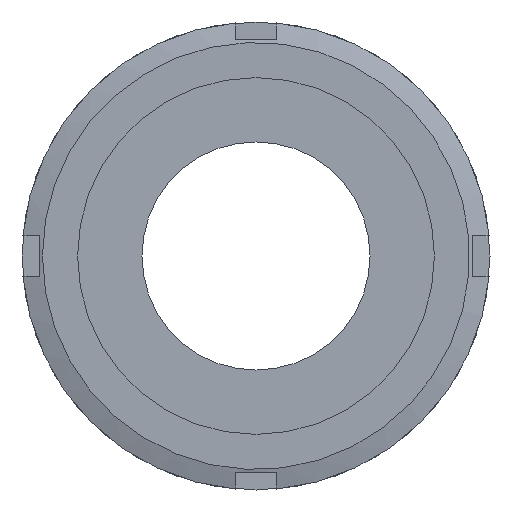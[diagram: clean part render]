
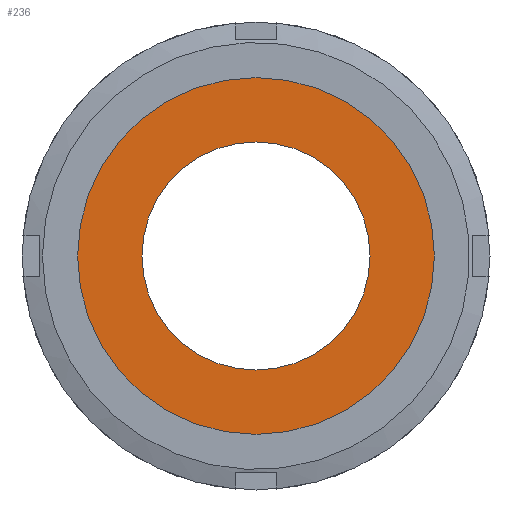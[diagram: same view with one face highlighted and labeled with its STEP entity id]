
A CAD part, left-side view. The second image highlights one B-rep face of the part: STEP entity #236.
In plain terms, the highlighted planar face has unit normal (-1, 0, 0) as drawn and (0, -1, 0) by its records, which use the part's own axes.
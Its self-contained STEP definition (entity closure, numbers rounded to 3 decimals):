
#236 = ADVANCED_FACE( '', ( #342, #343 ), #344, .T. );
#342 = FACE_OUTER_BOUND( '', #497, .T. );
#343 = FACE_BOUND( '', #498, .T. );
#344 = PLANE( '', #499 );
#497 = EDGE_LOOP( '', ( #795 ) );
#498 = EDGE_LOOP( '', ( #796 ) );
#499 = AXIS2_PLACEMENT_3D( '', #797, #798, #799 );
#795 = ORIENTED_EDGE( '', *, *, #1079, .T. );
#796 = ORIENTED_EDGE( '', *, *, #1080, .F. );
#797 = CARTESIAN_POINT( '', ( 19.5, 0., 0. ) );
#798 = DIRECTION( '', ( 0., -1., 0. ) );
#799 = DIRECTION( '', ( 0., 0., -1. ) );
#1079 = EDGE_CURVE( '', #1252, #1252, #1253, .T. );
#1080 = EDGE_CURVE( '', #1254, #1254, #1255, .T. );
#1252 = VERTEX_POINT( '', #1616 );
#1253 = CIRCLE( '', #1617, 30.5 );
#1254 = VERTEX_POINT( '', #1618 );
#1255 = CIRCLE( '', #1619, 19.5 );
#1616 = CARTESIAN_POINT( '', ( 0., 0., -30.5 ) );
#1617 = AXIS2_PLACEMENT_3D( '', #1863, #1864, #1865 );
#1618 = CARTESIAN_POINT( '', ( 0., 0., -19.5 ) );
#1619 = AXIS2_PLACEMENT_3D( '', #1866, #1867, #1868 );
#1863 = CARTESIAN_POINT( '', ( 0., 0., 0. ) );
#1864 = DIRECTION( '', ( 0., -1., 0. ) );
#1865 = DIRECTION( '', ( 0., 0., -1. ) );
#1866 = CARTESIAN_POINT( '', ( 0., 0., 0. ) );
#1867 = DIRECTION( '', ( 0., -1., 0. ) );
#1868 = DIRECTION( '', ( 0., 0., -1. ) );
